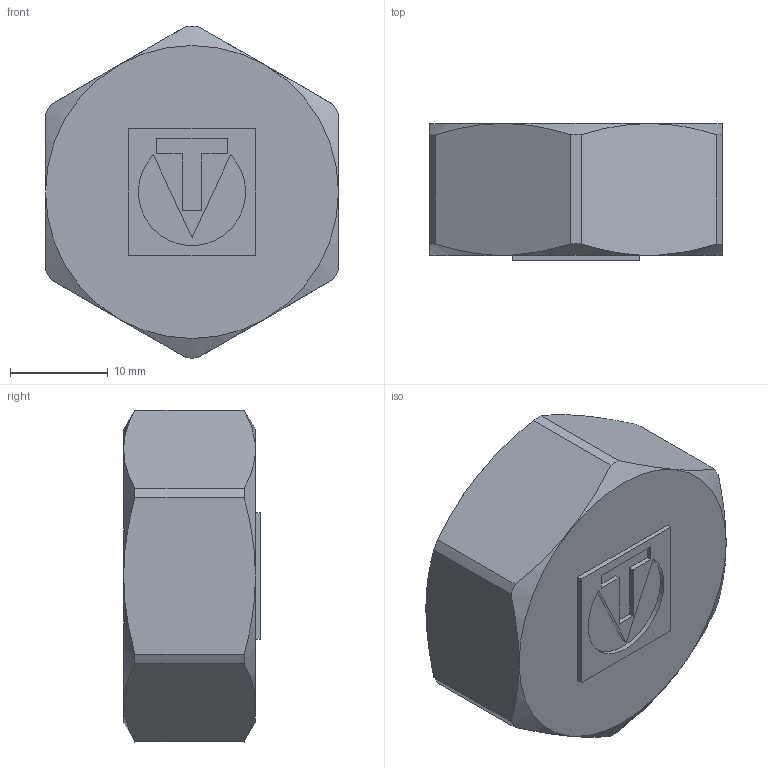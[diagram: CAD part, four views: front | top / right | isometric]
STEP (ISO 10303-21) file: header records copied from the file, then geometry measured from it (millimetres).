
FILE_DESCRIPTION(('STEP AP203'), '1');
FILE_NAME('ÂÐ.752513.011 - VTr.590.N.0005 Çàãë. ðåçüá', '2024-07-08T07:25:19', ('Boss'), (''), 'C3D Converter', 'C3D Toolkit', '');
FILE_SCHEMA(('CONFIG_CONTROL_DESIGN'));
Length unit declared in the file: millimetre
Products named in the file (1): ВР.752513.011
Bounding box: 30 x 14 x 34 mm (x, y, z)
Volume: 5624.5 mm3; surface area: 3674.6 mm2
Topology: 1 solids, 1 shells, 44 faces, 104 edges, 66 vertices
Faces by surface type: plane 26, cone 10, cylinder 8
Full cylindrical faces by diameter (mm): 24.118 x1
Entity records: 1859 total; most frequent: CARTESIAN_POINT 839, ORIENTED_EDGE 204, DIRECTION 197, EDGE_CURVE 102, AXIS2_PLACEMENT_3D 71, VERTEX_POINT 66, LINE 55, VECTOR 55
